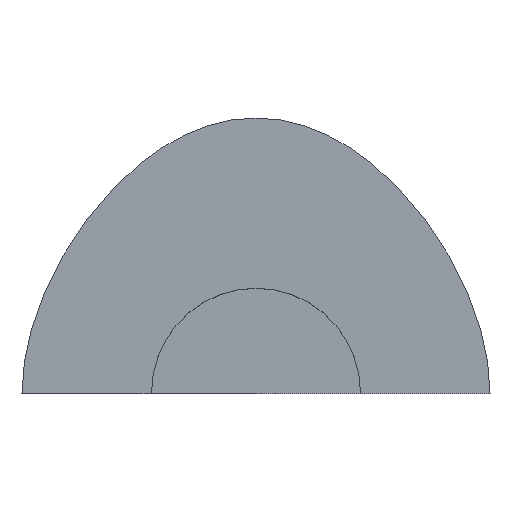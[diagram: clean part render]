
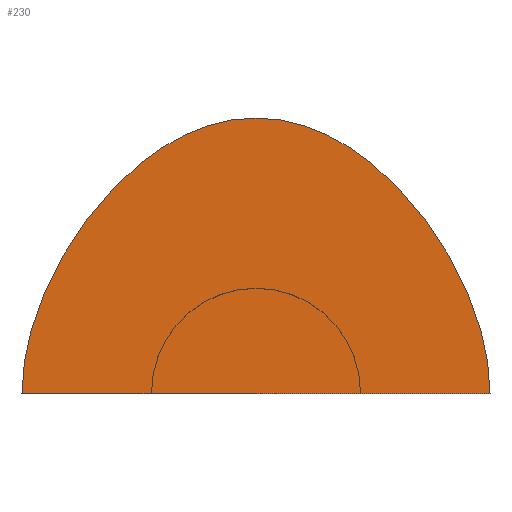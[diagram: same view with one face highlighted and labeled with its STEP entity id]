
A CAD part, top view. The second image highlights one B-rep face of the part: STEP entity #230.
In plain terms, the highlighted planar face has unit normal (0, 0, 1).
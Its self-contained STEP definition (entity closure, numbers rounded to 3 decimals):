
#193=CARTESIAN_POINT('Axis2P3D Location',(0.,53.593,0.)) ;
#198=CARTESIAN_POINT('Line Origine',(0.,0.,0.)) ;
#202=CARTESIAN_POINT('Vertex',(-112.,0.,0.)) ;
#204=CARTESIAN_POINT('Vertex',(112.,0.,0.)) ;
#208=CARTESIAN_POINT('Control Point',(0.,132.,0.)) ;
#209=CARTESIAN_POINT('Control Point',(34.623,132.,0.)) ;
#210=CARTESIAN_POINT('Control Point',(66.95,111.983,0.)) ;
#211=CARTESIAN_POINT('Control Point',(96.983,71.95,0.)) ;
#212=CARTESIAN_POINT('Control Point',(112.,34.623,0.)) ;
#213=CARTESIAN_POINT('Control Point',(112.,0.,0.)) ;
#214=CARTESIAN_POINT('Vertex',(0.,132.,0.)) ;
#218=CARTESIAN_POINT('Control Point',(0.,132.,0.)) ;
#219=CARTESIAN_POINT('Control Point',(-34.623,132.,0.)) ;
#220=CARTESIAN_POINT('Control Point',(-66.95,111.983,0.)) ;
#221=CARTESIAN_POINT('Control Point',(-96.983,71.95,0.)) ;
#222=CARTESIAN_POINT('Control Point',(-112.,34.623,0.)) ;
#223=CARTESIAN_POINT('Control Point',(-112.,0.,0.)) ;
#194=DIRECTION('Axis2P3D Direction',(0.,0.,1.)) ;
#195=DIRECTION('Axis2P3D XDirection',(1.,0.,0.)) ;
#199=DIRECTION('Vector Direction',(1.,0.,0.)) ;
#196=AXIS2_PLACEMENT_3D('Plane Axis2P3D',#193,#194,#195) ;
#226=ORIENTED_EDGE('',*,*,#206,.T.) ;
#227=ORIENTED_EDGE('',*,*,#216,.T.) ;
#228=ORIENTED_EDGE('',*,*,#224,.T.) ;
#200=VECTOR('Line Direction',#199,1.) ;
#230=ADVANCED_FACE('Fill.1',(#229),#197,.T.) ;
#207=B_SPLINE_CURVE_WITH_KNOTS('',5,(#208,#209,#210,#211,#212,#213),.UNSPECIFIED.,.F.,.U.,(6,6),(0.,173.113),.UNSPECIFIED.) ;
#217=B_SPLINE_CURVE_WITH_KNOTS('',5,(#218,#219,#220,#221,#222,#223),.UNSPECIFIED.,.F.,.U.,(6,6),(0.,173.113),.UNSPECIFIED.) ;
#206=EDGE_CURVE('',#203,#205,#201,.T.) ;
#216=EDGE_CURVE('',#205,#215,#207,.F.) ;
#224=EDGE_CURVE('',#215,#203,#217,.T.) ;
#225=EDGE_LOOP('',(#226,#227,#228)) ;
#229=FACE_OUTER_BOUND('',#225,.T.) ;
#201=LINE('Line',#198,#200) ;
#197=PLANE('',#196) ;
#203=VERTEX_POINT('',#202) ;
#205=VERTEX_POINT('',#204) ;
#215=VERTEX_POINT('',#214) ;
